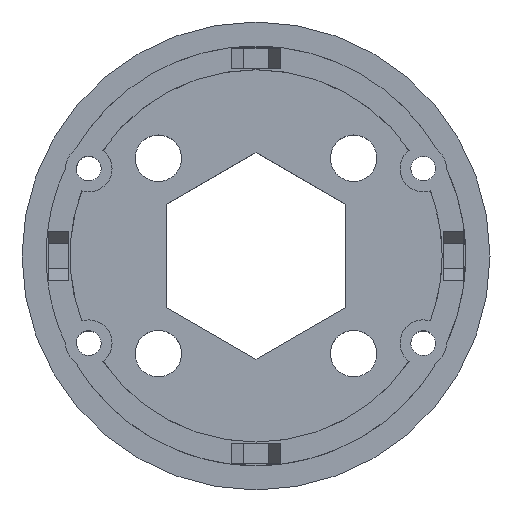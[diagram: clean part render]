
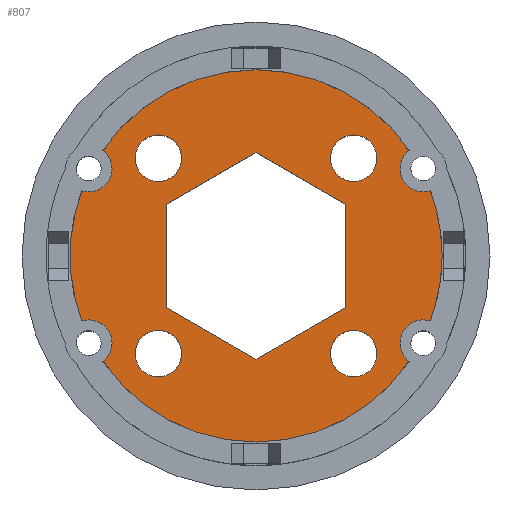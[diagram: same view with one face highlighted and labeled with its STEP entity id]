
A CAD part, top view. The second image highlights one B-rep face of the part: STEP entity #807.
In plain terms, the highlighted planar face has unit normal (0, 0, 1).
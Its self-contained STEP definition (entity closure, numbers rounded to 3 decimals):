
#193 = VERTEX_POINT('',#194);
#194 = CARTESIAN_POINT('',(-21.884,13.283,17.7));
#200 = EDGE_CURVE('',#201,#193,#203,.T.);
#201 = VERTEX_POINT('',#202);
#202 = CARTESIAN_POINT('',(-21.3,12.,17.7));
#203 = CIRCLE('',#204,1.7);
#204 = AXIS2_PLACEMENT_3D('',#205,#206,#207);
#205 = CARTESIAN_POINT('',(-23.,12.,17.7));
#206 = DIRECTION('',(0.,0.,1.));
#207 = DIRECTION('',(1.,0.,0.));
#249 = EDGE_CURVE('',#250,#201,#252,.T.);
#250 = VERTEX_POINT('',#251);
#251 = CARTESIAN_POINT('',(-23.414,10.351,17.7));
#252 = CIRCLE('',#253,1.7);
#253 = AXIS2_PLACEMENT_3D('',#254,#255,#256);
#254 = CARTESIAN_POINT('',(-23.,12.,17.7));
#255 = DIRECTION('',(0.,0.,1.));
#256 = DIRECTION('',(1.,0.,0.));
#377 = EDGE_CURVE('',#378,#380,#382,.T.);
#378 = VERTEX_POINT('',#379);
#379 = CARTESIAN_POINT('',(21.884,13.283,17.7));
#380 = VERTEX_POINT('',#381);
#381 = CARTESIAN_POINT('',(23.414,10.351,17.7));
#382 = CIRCLE('',#383,1.7);
#383 = AXIS2_PLACEMENT_3D('',#384,#385,#386);
#384 = CARTESIAN_POINT('',(23.,12.,17.7));
#385 = DIRECTION('',(0.,0.,1.));
#386 = DIRECTION('',(1.,0.,0.));
#480 = EDGE_CURVE('',#481,#483,#485,.T.);
#481 = VERTEX_POINT('',#482);
#482 = CARTESIAN_POINT('',(23.414,-10.351,17.7));
#483 = VERTEX_POINT('',#484);
#484 = CARTESIAN_POINT('',(21.884,-13.283,17.7));
#485 = CIRCLE('',#486,1.7);
#486 = AXIS2_PLACEMENT_3D('',#487,#488,#489);
#487 = CARTESIAN_POINT('',(23.,-12.,17.7));
#488 = DIRECTION('',(0.,0.,1.));
#489 = DIRECTION('',(1.,0.,0.));
#576 = VERTEX_POINT('',#577);
#577 = CARTESIAN_POINT('',(-23.414,-10.351,17.7));
#583 = EDGE_CURVE('',#584,#576,#586,.T.);
#584 = VERTEX_POINT('',#585);
#585 = CARTESIAN_POINT('',(-21.3,-12.,17.7));
#586 = CIRCLE('',#587,1.7);
#587 = AXIS2_PLACEMENT_3D('',#588,#589,#590);
#588 = CARTESIAN_POINT('',(-23.,-12.,17.7));
#589 = DIRECTION('',(0.,0.,1.));
#590 = DIRECTION('',(1.,0.,0.));
#625 = EDGE_CURVE('',#626,#584,#628,.T.);
#626 = VERTEX_POINT('',#627);
#627 = CARTESIAN_POINT('',(-21.884,-13.283,17.7));
#628 = CIRCLE('',#629,1.7);
#629 = AXIS2_PLACEMENT_3D('',#630,#631,#632);
#630 = CARTESIAN_POINT('',(-23.,-12.,17.7));
#631 = DIRECTION('',(0.,0.,1.));
#632 = DIRECTION('',(1.,0.,0.));
#762 = EDGE_CURVE('',#250,#576,#763,.T.);
#763 = CIRCLE('',#764,25.6);
#764 = AXIS2_PLACEMENT_3D('',#765,#766,#767);
#765 = CARTESIAN_POINT('',(0.,0.,17.7));
#766 = DIRECTION('',(0.,0.,1.));
#767 = DIRECTION('',(1.,0.,0.));
#807 = ADVANCED_FACE('',(#808,#847,#858,#869,#880,#930),#941,.T.);
#808 = FACE_BOUND('',#809,.T.);
#809 = EDGE_LOOP('',(#810,#811,#818,#819,#828,#835,#836,#843,#844,#845,
    #846));
#810 = ORIENTED_EDGE('',*,*,#625,.F.);
#811 = ORIENTED_EDGE('',*,*,#812,.T.);
#812 = EDGE_CURVE('',#626,#483,#813,.T.);
#813 = CIRCLE('',#814,25.6);
#814 = AXIS2_PLACEMENT_3D('',#815,#816,#817);
#815 = CARTESIAN_POINT('',(0.,0.,17.7));
#816 = DIRECTION('',(0.,0.,1.));
#817 = DIRECTION('',(1.,0.,0.));
#818 = ORIENTED_EDGE('',*,*,#480,.F.);
#819 = ORIENTED_EDGE('',*,*,#820,.T.);
#820 = EDGE_CURVE('',#481,#821,#823,.T.);
#821 = VERTEX_POINT('',#822);
#822 = CARTESIAN_POINT('',(25.6,0.,17.7));
#823 = CIRCLE('',#824,25.6);
#824 = AXIS2_PLACEMENT_3D('',#825,#826,#827);
#825 = CARTESIAN_POINT('',(0.,0.,17.7));
#826 = DIRECTION('',(0.,0.,1.));
#827 = DIRECTION('',(1.,0.,0.));
#828 = ORIENTED_EDGE('',*,*,#829,.T.);
#829 = EDGE_CURVE('',#821,#380,#830,.T.);
#830 = CIRCLE('',#831,25.6);
#831 = AXIS2_PLACEMENT_3D('',#832,#833,#834);
#832 = CARTESIAN_POINT('',(0.,0.,17.7));
#833 = DIRECTION('',(0.,0.,1.));
#834 = DIRECTION('',(1.,0.,0.));
#835 = ORIENTED_EDGE('',*,*,#377,.F.);
#836 = ORIENTED_EDGE('',*,*,#837,.T.);
#837 = EDGE_CURVE('',#378,#193,#838,.T.);
#838 = CIRCLE('',#839,25.6);
#839 = AXIS2_PLACEMENT_3D('',#840,#841,#842);
#840 = CARTESIAN_POINT('',(0.,0.,17.7));
#841 = DIRECTION('',(0.,0.,1.));
#842 = DIRECTION('',(1.,0.,0.));
#843 = ORIENTED_EDGE('',*,*,#200,.F.);
#844 = ORIENTED_EDGE('',*,*,#249,.F.);
#845 = ORIENTED_EDGE('',*,*,#762,.T.);
#846 = ORIENTED_EDGE('',*,*,#583,.F.);
#847 = FACE_BOUND('',#848,.T.);
#848 = EDGE_LOOP('',(#849));
#849 = ORIENTED_EDGE('',*,*,#850,.F.);
#850 = EDGE_CURVE('',#851,#851,#853,.T.);
#851 = VERTEX_POINT('',#852);
#852 = CARTESIAN_POINT('',(-10.235,-13.435,17.7));
#853 = CIRCLE('',#854,3.2);
#854 = AXIS2_PLACEMENT_3D('',#855,#856,#857);
#855 = CARTESIAN_POINT('',(-13.435,-13.435,17.7));
#856 = DIRECTION('',(0.,0.,1.));
#857 = DIRECTION('',(1.,0.,0.));
#858 = FACE_BOUND('',#859,.T.);
#859 = EDGE_LOOP('',(#860));
#860 = ORIENTED_EDGE('',*,*,#861,.F.);
#861 = EDGE_CURVE('',#862,#862,#864,.T.);
#862 = VERTEX_POINT('',#863);
#863 = CARTESIAN_POINT('',(16.635,-13.435,17.7));
#864 = CIRCLE('',#865,3.2);
#865 = AXIS2_PLACEMENT_3D('',#866,#867,#868);
#866 = CARTESIAN_POINT('',(13.435,-13.435,17.7));
#867 = DIRECTION('',(0.,0.,1.));
#868 = DIRECTION('',(1.,0.,0.));
#869 = FACE_BOUND('',#870,.T.);
#870 = EDGE_LOOP('',(#871));
#871 = ORIENTED_EDGE('',*,*,#872,.F.);
#872 = EDGE_CURVE('',#873,#873,#875,.T.);
#873 = VERTEX_POINT('',#874);
#874 = CARTESIAN_POINT('',(-10.235,13.435,17.7));
#875 = CIRCLE('',#876,3.2);
#876 = AXIS2_PLACEMENT_3D('',#877,#878,#879);
#877 = CARTESIAN_POINT('',(-13.435,13.435,17.7));
#878 = DIRECTION('',(0.,0.,1.));
#879 = DIRECTION('',(1.,0.,0.));
#880 = FACE_BOUND('',#881,.T.);
#881 = EDGE_LOOP('',(#882,#892,#900,#908,#916,#924));
#882 = ORIENTED_EDGE('',*,*,#883,.F.);
#883 = EDGE_CURVE('',#884,#886,#888,.T.);
#884 = VERTEX_POINT('',#885);
#885 = CARTESIAN_POINT('',(0.,14.203,17.7));
#886 = VERTEX_POINT('',#887);
#887 = CARTESIAN_POINT('',(-12.3,7.101,17.7));
#888 = LINE('',#889,#890);
#889 = CARTESIAN_POINT('',(-3.075,12.427,17.7));
#890 = VECTOR('',#891,1.);
#891 = DIRECTION('',(-0.866,-0.5,0.));
#892 = ORIENTED_EDGE('',*,*,#893,.F.);
#893 = EDGE_CURVE('',#894,#884,#896,.T.);
#894 = VERTEX_POINT('',#895);
#895 = CARTESIAN_POINT('',(12.3,7.101,17.7));
#896 = LINE('',#897,#898);
#897 = CARTESIAN_POINT('',(9.225,8.877,17.7));
#898 = VECTOR('',#899,1.);
#899 = DIRECTION('',(-0.866,0.5,0.));
#900 = ORIENTED_EDGE('',*,*,#901,.F.);
#901 = EDGE_CURVE('',#902,#894,#904,.T.);
#902 = VERTEX_POINT('',#903);
#903 = CARTESIAN_POINT('',(12.3,-7.101,17.7));
#904 = LINE('',#905,#906);
#905 = CARTESIAN_POINT('',(12.3,-3.551,17.7));
#906 = VECTOR('',#907,1.);
#907 = DIRECTION('',(0.,1.,0.));
#908 = ORIENTED_EDGE('',*,*,#909,.F.);
#909 = EDGE_CURVE('',#910,#902,#912,.T.);
#910 = VERTEX_POINT('',#911);
#911 = CARTESIAN_POINT('',(0.,-14.203,17.7));
#912 = LINE('',#913,#914);
#913 = CARTESIAN_POINT('',(3.075,-12.427,17.7));
#914 = VECTOR('',#915,1.);
#915 = DIRECTION('',(0.866,0.5,0.));
#916 = ORIENTED_EDGE('',*,*,#917,.F.);
#917 = EDGE_CURVE('',#918,#910,#920,.T.);
#918 = VERTEX_POINT('',#919);
#919 = CARTESIAN_POINT('',(-12.3,-7.101,17.7));
#920 = LINE('',#921,#922);
#921 = CARTESIAN_POINT('',(-9.225,-8.877,17.7));
#922 = VECTOR('',#923,1.);
#923 = DIRECTION('',(0.866,-0.5,0.));
#924 = ORIENTED_EDGE('',*,*,#925,.F.);
#925 = EDGE_CURVE('',#886,#918,#926,.T.);
#926 = LINE('',#927,#928);
#927 = CARTESIAN_POINT('',(-12.3,3.551,17.7));
#928 = VECTOR('',#929,1.);
#929 = DIRECTION('',(0.,-1.,0.));
#930 = FACE_BOUND('',#931,.T.);
#931 = EDGE_LOOP('',(#932));
#932 = ORIENTED_EDGE('',*,*,#933,.F.);
#933 = EDGE_CURVE('',#934,#934,#936,.T.);
#934 = VERTEX_POINT('',#935);
#935 = CARTESIAN_POINT('',(16.635,13.435,17.7));
#936 = CIRCLE('',#937,3.2);
#937 = AXIS2_PLACEMENT_3D('',#938,#939,#940);
#938 = CARTESIAN_POINT('',(13.435,13.435,17.7));
#939 = DIRECTION('',(0.,0.,1.));
#940 = DIRECTION('',(1.,0.,0.));
#941 = PLANE('',#942);
#942 = AXIS2_PLACEMENT_3D('',#943,#944,#945);
#943 = CARTESIAN_POINT('',(0.,0.,17.7));
#944 = DIRECTION('',(0.,0.,1.));
#945 = DIRECTION('',(1.,0.,0.));
